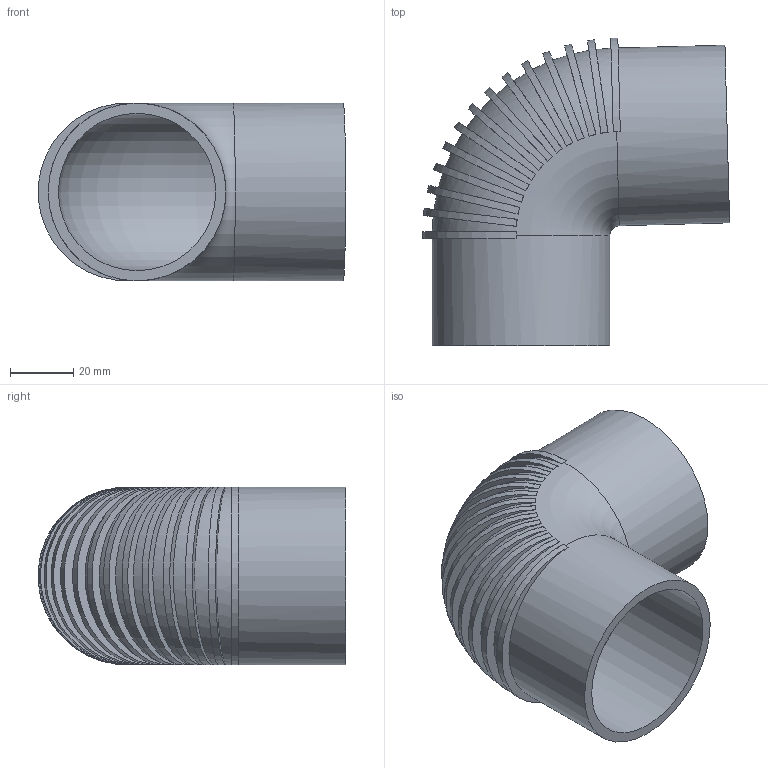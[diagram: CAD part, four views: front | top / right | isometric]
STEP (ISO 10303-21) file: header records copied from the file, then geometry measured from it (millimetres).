
FILE_DESCRIPTION(/* description */ (''),/* implementation_level */ '2;1');
FILE_NAME(/* name */ 'Z:\Geberit\Export\NewStep\Bogen_Ipart\stp\305880.stp',/* time_stamp */ '2014-04-03T16:43:16+02:00',/* author */ ('Marco'),/* organization */ (''),/* preprocessor_version */ 'ST-DEVELOPER v15.2',/* originating_system */ 'Autodesk Inventor 2014',/* authorisation */ '');
FILE_SCHEMA (('AUTOMOTIVE_DESIGN { 1 0 10303 214 3 1 1 }'));
Length unit declared in the file: millimetre
Products named in the file (1): 305880
Bounding box: 96.81 x 96.91 x 56 mm (x, y, z)
Volume: 67991.6 mm3; surface area: 45271.3 mm2
Topology: 1 solids, 1 shells, 50 faces, 144 edges, 96 vertices
Faces by surface type: plane 30, cylinder 18, torus 2
Full cylindrical faces by diameter (mm): 49.6 x2, 56 x2
Entity records: 2423 total; most frequent: CARTESIAN_POINT 1253, ORIENTED_EDGE 244, DIRECTION 182, EDGE_CURVE 122, VERTEX_POINT 92, AXIS2_PLACEMENT_3D 89, B_SPLINE_CURVE_WITH_KNOTS 80, EDGE_LOOP 70
